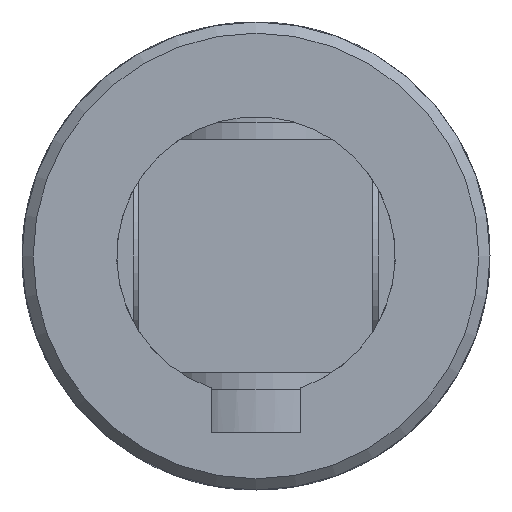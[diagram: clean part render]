
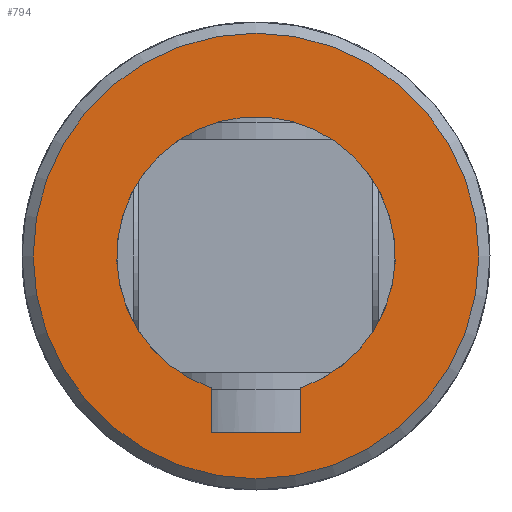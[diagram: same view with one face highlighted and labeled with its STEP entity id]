
A CAD part, front view. The second image highlights one B-rep face of the part: STEP entity #794.
In plain terms, the highlighted planar face has unit normal (0, -1, 0).
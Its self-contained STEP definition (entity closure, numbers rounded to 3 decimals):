
#91=LINE('',#1263,#122);
#93=LINE('',#1279,#124);
#95=LINE('',#1283,#126);
#122=VECTOR('',#1001,3.957);
#124=VECTOR('',#1005,8.);
#126=VECTOR('',#1011,3.957);
#154=PLANE('',#865);
#179=FACE_BOUND('',#272,.T.);
#207=FACE_OUTER_BOUND('',#271,.T.);
#271=EDGE_LOOP('',(#625));
#272=EDGE_LOOP('',(#626,#627,#628,#629));
#317=CIRCLE('',#855,12.5);
#321=CIRCLE('',#863,20.);
#367=VERTEX_POINT('',#1231);
#368=VERTEX_POINT('',#1233);
#371=VERTEX_POINT('',#1262);
#373=VERTEX_POINT('',#1278);
#375=VERTEX_POINT('',#1287);
#450=EDGE_CURVE('',#368,#367,#317,.T.);
#455=EDGE_CURVE('',#371,#368,#91,.T.);
#458=EDGE_CURVE('',#373,#371,#93,.T.);
#461=EDGE_CURVE('',#367,#373,#95,.T.);
#463=EDGE_CURVE('',#375,#375,#321,.T.);
#625=ORIENTED_EDGE('',*,*,#463,.F.);
#626=ORIENTED_EDGE('',*,*,#450,.T.);
#627=ORIENTED_EDGE('',*,*,#461,.T.);
#628=ORIENTED_EDGE('',*,*,#458,.T.);
#629=ORIENTED_EDGE('',*,*,#455,.T.);
#794=ADVANCED_FACE('',(#207,#179),#154,.F.);
#855=AXIS2_PLACEMENT_3D('',#1234,#994,#995);
#863=AXIS2_PLACEMENT_3D('',#1288,#1016,#1017);
#865=AXIS2_PLACEMENT_3D('',#1512,#1024,#1025);
#994=DIRECTION('center_axis',(0.,1.,0.));
#995=DIRECTION('ref_axis',(-0.32,0.,0.947));
#1001=DIRECTION('',(0.,0.,1.));
#1005=DIRECTION('',(-1.,0.,0.));
#1011=DIRECTION('',(0.,0.,-1.));
#1016=DIRECTION('center_axis',(0.,1.,0.));
#1017=DIRECTION('ref_axis',(1.,0.,0.));
#1024=DIRECTION('center_axis',(0.,1.,0.));
#1025=DIRECTION('ref_axis',(0.,0.,1.));
#1231=CARTESIAN_POINT('',(4.,-64.,-11.843));
#1233=CARTESIAN_POINT('',(-4.,-64.,-11.843));
#1234=CARTESIAN_POINT('Origin',(0.,-64.,0.));
#1262=CARTESIAN_POINT('',(-4.,-64.,-15.8));
#1263=CARTESIAN_POINT('',(-4.,-64.,-7.9));
#1278=CARTESIAN_POINT('',(4.,-64.,-15.8));
#1279=CARTESIAN_POINT('',(2.,-64.,-15.8));
#1283=CARTESIAN_POINT('',(4.,-64.,-5.921));
#1287=CARTESIAN_POINT('',(-20.,-64.,0.));
#1288=CARTESIAN_POINT('Origin',(0.,-64.,0.));
#1512=CARTESIAN_POINT('Origin',(0.,-64.,0.));
